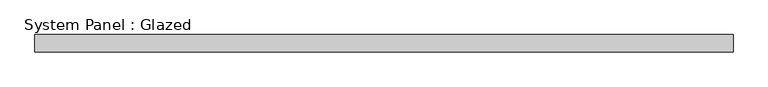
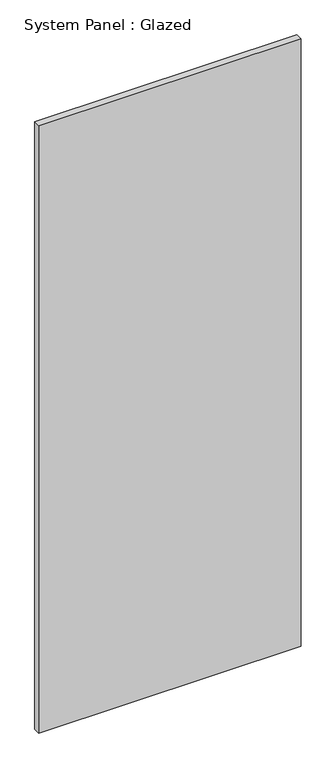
"""IFC4 building model written with IfcOpenShell, lengths in millimetres: plate geometry, System Panel : Glazed."""

from ifc_helpers import new_model, si_unit, origin, origin_with_axes, place, context, project, spatial, polyline, outline, extrude, source, transform, mapped, element, save


def system_panel_glazed_e030b4d7(model_context):
    return source(origin(), model_context, "Body", "SweptSolid", [
        extrude(outline(polyline([(503.75, -72.5), (-503.75, -72.5), (-503.75, -47.5), (503.75, -47.5), (503.75, -72.5)])), origin_with_axes(), (0.0, 0.0, 1.0), 2465.0),
    ])


if __name__ == "__main__":
    model = new_model("IFC4")
    model_context = context("Model", 3, world=origin())
    ifc_project = project(units=[si_unit("LENGTHUNIT", "METRE", prefix="MILLI")], contexts=[model_context])
    site = spatial("IfcSite", under=ifc_project)
    building = spatial("IfcBuilding", under=site)
    placement = place(None, origin())
    system_panel_glazed_shape = system_panel_glazed_e030b4d7(model_context)
    element("IfcPlate", 1, ObjectType="System Panel : Glazed", at=placement, inside=building, context=model_context, shape_type="MappedRepresentation", body=[
        mapped(system_panel_glazed_shape, transform((0.0, 0.0, 0.0), x_axis=(1.0, 0.0, 0.0), y_axis=(0.0, 1.0, 0.0), z_axis=(0.0, 0.0, 1.0))),
    ])
    save(model, "model.ifc")
